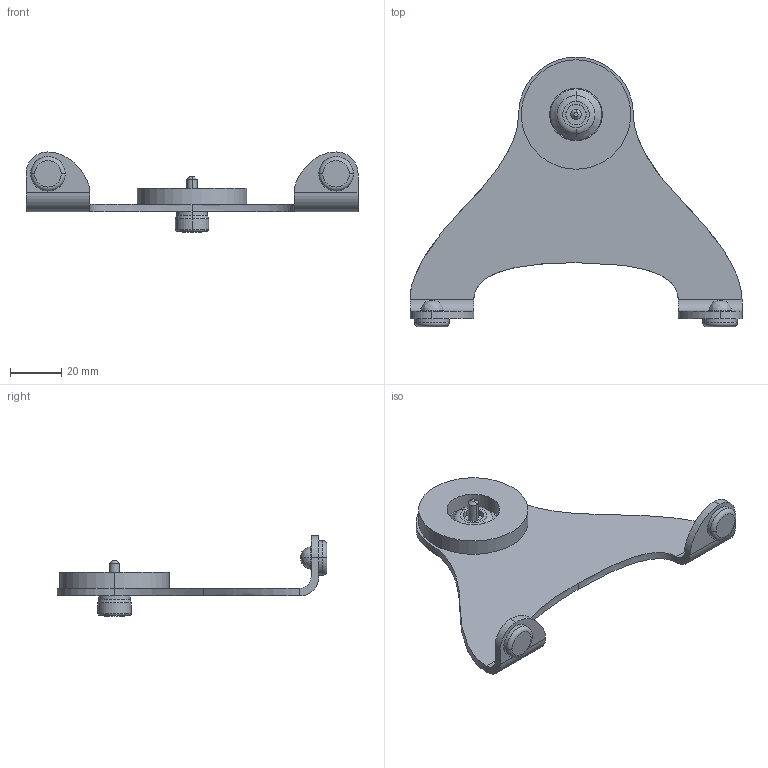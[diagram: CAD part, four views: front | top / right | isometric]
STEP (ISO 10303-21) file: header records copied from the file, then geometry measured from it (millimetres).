
FILE_DESCRIPTION((''),'2;1');
FILE_NAME('BKT_DESKTOP_9901','2007-02-01T',('chrisj'),(''),'PRO/ENGINEER BY PARAMETRIC TECHNOLOGY CORPORATION, 2006080','PRO/ENGINEER BY PARAMETRIC TECHNOLOGY CORPORATION, 2006080','');
FILE_SCHEMA(('AUTOMOTIVE_DESIGN_CC2 { 1 2 10303 214 -1 1 5 2 }'));
Length unit declared in the file: inch
Products named in the file (1): BKT_DESKTOP_9901
Bounding box: 130 x 105.67 x 31.38 mm (x, y, z)
Volume: 31467.5 mm3; surface area: 18914.3 mm2
Topology: 1 solids, 1 shells, 153 faces, 337 edges, 214 vertices
Faces by surface type: plane 56, cylinder 41, cone 30, torus 14, extrusion 8, bspline 4
Entity records: 4847 total; most frequent: CARTESIAN_POINT 1412, DIRECTION 727, ORIENTED_EDGE 674, EDGE_CURVE 337, AXIS2_PLACEMENT_3D 305, VERTEX_POINT 214, EDGE_LOOP 181, CIRCLE 164
